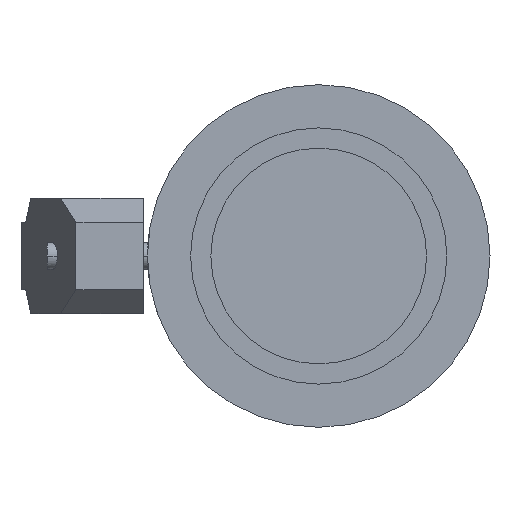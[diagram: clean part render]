
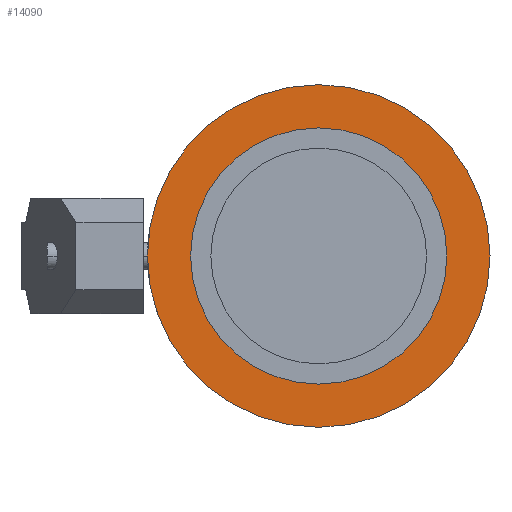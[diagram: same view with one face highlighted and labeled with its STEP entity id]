
A CAD part, left-side view. The second image highlights one B-rep face of the part: STEP entity #14090.
In plain terms, the highlighted planar face has unit normal (-1, 0, 0).
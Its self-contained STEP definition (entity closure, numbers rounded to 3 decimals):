
#13530=CARTESIAN_POINT('',(250.928,201.848,
0.));
#13540=VERTEX_POINT('',#13530);
#13660=CARTESIAN_POINT('',(250.928,328.848,0.));
#13670=VERTEX_POINT('',#13660);
#13700=CARTESIAN_POINT('',(250.928,265.348,0.));
#13710=DIRECTION('',(1.,0.,0.));
#13720=DIRECTION('',(0.,1.,0.));
#13730=AXIS2_PLACEMENT_3D('',#13700,#13710,#13720);
#13740=CIRCLE('',#13730,63.5);
#13750=EDGE_CURVE('',#13540,#13670,#13740,.T.);
#13800=CARTESIAN_POINT('',(250.928,326.498,0.));
#13810=DIRECTION('',(1.,0.,0.));
#13820=DIRECTION('',(0.,1.,0.));
#13830=AXIS2_PLACEMENT_3D('',#13800,#13810,#13820);
#13840=PLANE('',#13830);
#13850=CARTESIAN_POINT('',(250.928,265.348,0.));
#13860=DIRECTION('',(1.,0.,0.));
#13870=DIRECTION('',(0.,-1.,0.));
#13880=AXIS2_PLACEMENT_3D('',#13850,#13860,#13870);
#13890=CIRCLE('',#13880,45.);
#13900=CARTESIAN_POINT('',(250.928,265.348,-45.));
#13910=VERTEX_POINT('',#13900);
#13920=CARTESIAN_POINT('',(250.928,265.348,45.));
#13930=VERTEX_POINT('',#13920);
#13940=EDGE_CURVE('',#13910,#13930,#13890,.T.);
#13950=ORIENTED_EDGE('',*,*,#13940,.T.);
#13960=CARTESIAN_POINT('',(250.928,220.348,0.));
#13970=VERTEX_POINT('',#13960);
#13980=EDGE_CURVE('',#13970,#13910,#13890,.T.);
#13990=ORIENTED_EDGE('',*,*,#13980,.T.);
#14000=EDGE_CURVE('',#13930,#13970,#13890,.T.);
#14010=ORIENTED_EDGE('',*,*,#14000,.T.);
#14020=EDGE_LOOP('',(#14010,#13990,#13950));
#14030=FACE_BOUND('',#14020,.T.);
#14040=EDGE_CURVE('',#13670,#13540,#13740,.T.);
#14050=ORIENTED_EDGE('',*,*,#14040,.F.);
#14060=ORIENTED_EDGE('',*,*,#13750,.F.);
#14070=EDGE_LOOP('',(#14060,#14050));
#14080=FACE_OUTER_BOUND('',#14070,.T.);
#14090=ADVANCED_FACE('',(#14030,#14080),#13840,.F.);
